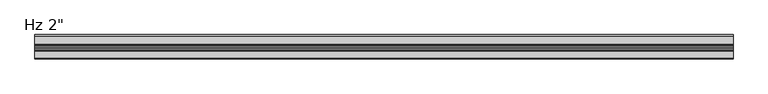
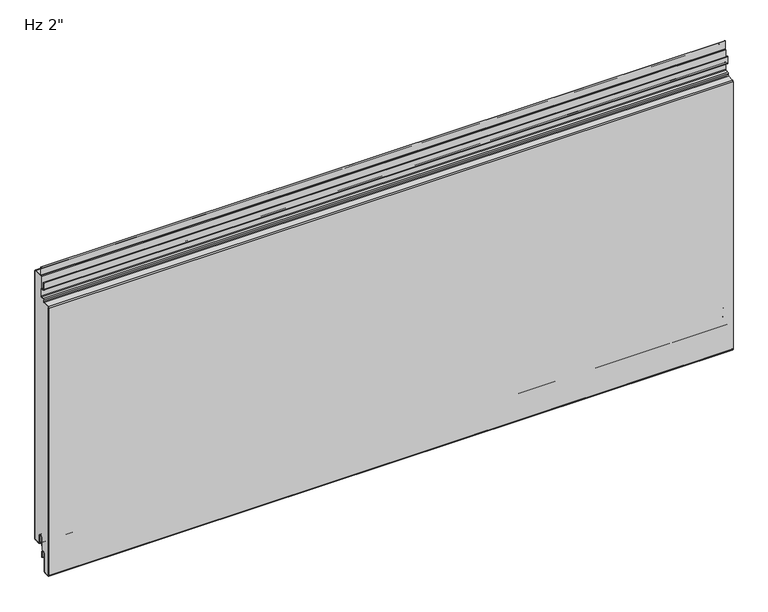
"""IFC4 building model written with IfcOpenShell, lengths in millimetres: plate geometry."""

from ifc_helpers import new_model, si_unit, point, frame, frame_2d, origin, place, context, project, spatial, polyline, circle_curve, ellipse_curve, trimmed, segment, composite_curve, outline, extrude, source, transform, mapped, element, save
from ifc_brep_helpers import plane_surface, cylinder_surface, revolved_surface, extruded_surface, advanced_brep


def plate_7f3252d8(model_context):
    return source(origin(), model_context, "Body", "SolidModel", [
        extrude(outline(composite_curve([segment(polyline([(-22.8125, 564.5620957), (-22.8125, 607.80625), (-2.38125, 607.80625)]), True, "CONTINUOUS"), segment(trimmed(circle_curve(frame_2d((-2.38125, 606.425)), 1.38125), [point((-2.38125, 607.80625))], [point((-1.0, 606.425))], False, "CARTESIAN"), True, "CONTINUOUS"), segment(polyline([(-1.0, 606.425), (-1.0, 3.175)]), True, "CONTINUOUS"), segment(trimmed(circle_curve(frame_2d((-2.38125, 3.175)), 1.38125), [point((-1.0, 3.175))], [point((-2.38125, 1.79375))], False, "CARTESIAN"), True, "CONTINUOUS"), segment(polyline([(-2.38125, 1.79375), (-15.08125, 1.79375)]), True, "CONTINUOUS"), segment(trimmed(circle_curve(frame_2d((-15.08125, 3.175)), 1.38125), [point((-15.08125, 1.79375))], [point((-16.4625, 3.175))], False, "CARTESIAN"), True, "CONTINUOUS"), segment(polyline([(-16.4625, 3.175), (-16.4625, 19.05)]), True, "CONTINUOUS"), segment(trimmed(circle_curve(frame_2d((-21.43125, 19.05)), 4.96875), [point((-16.4625, 19.05))], [point((-26.4, 19.05))], True, "CARTESIAN"), True, "CONTINUOUS"), segment(polyline([(-26.4, 19.05), (-26.4, -6.9375), (-30.95625, -6.9375)]), True, "CONTINUOUS"), segment(trimmed(circle_curve(frame_2d((-30.95625, -11.90625)), 4.96875), [point((-30.95625, -6.9375))], [point((-35.925, -11.90625))], True, "CARTESIAN"), True, "CONTINUOUS"), segment(polyline([(-35.925, -11.90625), (-35.925, -50.0895546)]), True, "CONTINUOUS"), segment(trimmed(circle_curve(frame_2d((-37.30625, -50.0895546)), 1.38125), [point((-35.925, -50.0895546))], [point((-37.233961, -51.4689117))], False, "CARTESIAN"), True, "CONTINUOUS"), segment(polyline([(-37.233961, -51.4689117), (-48.346461, -52.0512931)]), True, "CONTINUOUS"), segment(trimmed(circle_curve(frame_2d((-48.41875, -50.6719361)), 1.38125), [point((-48.346461, -52.0512931))], [point((-49.8, -50.6719361))], False, "CARTESIAN"), True, "CONTINUOUS"), segment(polyline([(-49.8, -50.6719361), (-49.8, 552.5715281)]), True, "CONTINUOUS"), segment(trimmed(circle_curve(frame_2d((-48.41875, 552.5715281)), 1.38125), [point((-49.8, 552.5715281))], [point((-48.491039, 553.9508852))], False, "CARTESIAN"), True, "CONTINUOUS"), segment(polyline([(-48.491039, 553.9508852), (-34.7895807, 554.6689482)]), True, "CONTINUOUS"), segment(trimmed(circle_curve(frame_2d((-34.925, 557.2529021)), 2.5875), [point((-34.7895807, 554.6689482))], [point((-32.3375, 557.2529021))], True, "CARTESIAN"), True, "CONTINUOUS"), segment(polyline([(-32.3375, 557.2529021), (-32.3375, 560.2967085)]), True, "CONTINUOUS"), segment(trimmed(circle_curve(frame_2d((-30.95625, 560.2967085)), 1.38125), [point((-32.3375, 560.2967085))], [point((-31.028539, 561.6760655))], False, "CARTESIAN"), True, "CONTINUOUS"), segment(polyline([(-31.028539, 561.6760655), (-25.2645807, 561.9781418)]), True, "CONTINUOUS"), segment(trimmed(circle_curve(frame_2d((-25.4, 564.5620957)), 2.5875), [point((-25.2645807, 561.9781418))], [point((-22.8125, 564.5620957))], True, "CARTESIAN"), True, "CONTINUOUS")], self_intersect=False)), frame((-730.0, 0.0, 0.0), z_axis=(1.0, 0.0, 0.0), x_axis=(0.0, 1.0, 0.0)), (0.0, 0.0, 1.0), 1460.0),
        extrude(outline(composite_curve([segment(polyline([(-25.4, 0.79375), (-26.4, 0.79375), (-26.4, 19.05)]), True, "CONTINUOUS"), segment(trimmed(circle_curve(frame_2d((-21.43125, 19.05)), 4.96875), [point((-26.4, 19.05))], [point((-16.4625, 19.05))], False, "CARTESIAN"), True, "CONTINUOUS"), segment(polyline([(-16.4625, 19.05), (-16.4625, 3.175)]), True, "CONTINUOUS"), segment(trimmed(circle_curve(frame_2d((-15.08125, 3.175)), 1.38125), [point((-16.4625, 3.175))], [point((-15.08125, 1.79375))], True, "CARTESIAN"), True, "CONTINUOUS"), segment(polyline([(-15.08125, 1.79375), (-2.38125, 1.79375)]), True, "CONTINUOUS"), segment(trimmed(circle_curve(frame_2d((-2.38125, 3.175)), 1.38125), [point((-2.38125, 1.79375))], [point((-1.0, 3.175))], True, "CARTESIAN"), True, "CONTINUOUS"), segment(polyline([(-1.0, 3.175), (-1.0, 606.425)]), True, "CONTINUOUS"), segment(trimmed(circle_curve(frame_2d((-2.38125, 606.425)), 1.38125), [point((-1.0, 606.425))], [point((-2.38125, 607.80625))], True, "CARTESIAN"), True, "CONTINUOUS"), segment(polyline([(-2.38125, 607.80625), (-19.446875, 607.80625)]), True, "CONTINUOUS"), segment(trimmed(circle_curve(frame_2d((-19.446875, 610.39375)), 2.5875), [point((-19.446875, 607.80625))], [point((-22.034375, 610.39375))], False, "CARTESIAN"), True, "CONTINUOUS"), segment(polyline([(-22.034375, 610.39375), (-22.034375, 627.85625), (-21.034375, 627.85625), (-21.034375, 610.39375)]), True, "CONTINUOUS"), segment(trimmed(circle_curve(frame_2d((-19.446875, 610.39375)), 1.5875), [point((-21.034375, 610.39375))], [point((-19.446875, 608.80625))], True, "CARTESIAN"), True, "CONTINUOUS"), segment(polyline([(-19.446875, 608.80625), (-2.38125, 608.80625)]), True, "CONTINUOUS"), segment(trimmed(circle_curve(frame_2d((-2.38125, 606.425)), 2.38125), [point((-2.38125, 608.80625))], [point((0.0, 606.425))], False, "CARTESIAN"), True, "CONTINUOUS"), segment(polyline([(0.0, 606.425), (0.0, 3.175)]), True, "CONTINUOUS"), segment(trimmed(circle_curve(frame_2d((-2.38125, 3.175)), 2.38125), [point((0.0, 3.175))], [point((-2.38125, 0.79375))], False, "CARTESIAN"), True, "CONTINUOUS"), segment(polyline([(-2.38125, 0.79375), (-15.08125, 0.79375)]), True, "CONTINUOUS"), segment(trimmed(circle_curve(frame_2d((-15.08125, 3.175)), 2.38125), [point((-15.08125, 0.79375))], [point((-17.4625, 3.175))], False, "CARTESIAN"), True, "CONTINUOUS"), segment(polyline([(-17.4625, 3.175), (-17.4625, 19.05)]), True, "CONTINUOUS"), segment(trimmed(circle_curve(frame_2d((-21.43125, 19.05)), 3.96875), [point((-17.4625, 19.05))], [point((-25.4, 19.05))], True, "CARTESIAN"), True, "CONTINUOUS"), segment(polyline([(-25.4, 19.05), (-25.4, 0.79375)]), True, "CONTINUOUS")], self_intersect=False)), frame((-730.0, 0.0, 0.0), z_axis=(1.0, 0.0, 0.0), x_axis=(0.0, 1.0, 0.0)), (0.0, 0.0, 1.0), 1460.0),
        advanced_brep(
        [(-730.0, -25.4, -23.2314549), (-730.0, -26.9875, -23.2314549), (-730.0, -26.9875, -11.9205174), (-730.0, -34.925, -11.9205174), (-730.0, -34.925, -50.1038221), (-730.0, -37.181625, -52.4818086), (-730.0, -48.294125, -53.0641901), (-730.0, -50.8, -50.6862035), (-730.0, -50.8, 552.5572607), (-730.0, -48.543375, 554.9352473), (-730.0, -34.8419167, 555.6533103), (-730.0, -33.3375, 557.2386347), (-730.0, -33.3375, 560.2824411), (-730.0, -31.080875, 562.6604276), (-730.0, -25.3169167, 562.9625039), (-730.0, -23.8125, 564.5478283), (-730.0, -23.8125, 579.4232326), (-730.0, -25.4, 581.0107326), (-730.0, -29.5671875, 581.0107326), (-730.0, -31.9484375, 583.3919826), (-730.0, -31.9484375, 597.8836032), (-730.0, -30.1546875, 597.8836032), (-730.0, -30.1546875, 588.1544826), (-730.0, -30.9484375, 588.1544826), (-730.0, -30.9484375, 583.3919826), (-730.0, -29.5671875, 582.0107326), (-730.0, -25.4, 582.0107326), (-730.0, -22.8125, 579.4232326), (-730.0, -22.8125, 564.5478283), (-730.0, -25.2645807, 561.9638744), (-730.0, -31.028539, 561.6617981), (-730.0, -32.3375, 560.2824411), (-730.0, -32.3375, 557.2386347), (-730.0, -34.7895807, 554.6546807), (-730.0, -48.491039, 553.9366177), (-730.0, -49.8, 552.5572607), (-730.0, -49.8, -50.6862035), (-730.0, -48.346461, -52.0655606), (-730.0, -37.233961, -51.4831791), (-730.0, -35.925, -50.1038221), (-730.0, -35.925, -11.9205174), (-730.0, -25.9875, -11.9205174), (-730.0, -26.19375, -13.5080174), (-730.0, -25.4, -13.5080174), (730.0, -25.4, -23.2314549), (730.0, -25.4, -13.5080174), (730.0, -26.19375, -13.5080174), (730.0, -25.9875, -11.9205174), (730.0, -35.925, -11.9205174), (730.0, -35.925, -50.1038221), (730.0, -37.233961, -51.4831791), (730.0, -48.346461, -52.0655606), (730.0, -49.8, -50.6862035), (730.0, -49.8, 552.5572607), (730.0, -48.491039, 553.9366177), (730.0, -34.7895807, 554.6546807), (730.0, -32.3375, 557.2386347), (730.0, -32.3375, 560.2824411), (730.0, -31.028539, 561.6617981), (730.0, -25.2645807, 561.9638744), (730.0, -22.8125, 564.5478283), (730.0, -22.8125, 579.4232326), (730.0, -25.4, 582.0107326), (730.0, -29.5671875, 582.0107326), (730.0, -30.9484375, 583.3919826), (730.0, -30.9484375, 588.1544826), (730.0, -30.1546875, 588.1544826), (730.0, -30.1546875, 597.8836032), (730.0, -31.9484375, 597.8836032), (730.0, -31.9484375, 583.3919826), (730.0, -29.5671875, 581.0107326), (730.0, -25.4, 581.0107326), (730.0, -23.8125, 579.4232326), (730.0, -23.8125, 564.5478283), (730.0, -25.3169167, 562.9625039), (730.0, -31.080875, 562.6604276), (730.0, -33.3375, 560.2824411), (730.0, -33.3375, 557.2386347), (730.0, -34.8419167, 555.6533103), (730.0, -48.543375, 554.9352473), (730.0, -50.8, 552.5572607), (730.0, -50.8, -50.6862035), (730.0, -48.294125, -53.0641901), (730.0, -37.181625, -52.4818086), (730.0, -34.925, -50.1038221), (730.0, -34.925, -11.9205174), (730.0, -26.9875, -11.9205174), (730.0, -26.9875, -23.2314549)],
        [
            (0, 1, circle_curve(frame((-730.0, -26.19375, -23.2314549), z_axis=(-1.0, 0.0, 0.0), x_axis=(0.0, 0.0, 1.0)), 0.79375)),
            (1, 2),
            (2, 3, circle_curve(frame((-730.0, -30.95625, -11.9205174), z_axis=(1.0, 0.0, 0.0), x_axis=(0.0, 0.0, 1.0)), 3.96875)),
            (3, 4),
            (4, 5, circle_curve(frame((-730.0, -37.30625, -50.1038221), z_axis=(-1.0, 0.0, 0.0), x_axis=(0.0, 0.0, 1.0)), 2.38125)),
            (5, 6),
            (6, 7, circle_curve(frame((-730.0, -48.41875, -50.6862035), z_axis=(-1.0, 0.0, 0.0), x_axis=(0.0, 0.0, 1.0)), 2.38125)),
            (7, 8),
            (8, 9, circle_curve(frame((-730.0, -48.41875, 552.5572607), z_axis=(-1.0, 0.0, 0.0), x_axis=(0.0, 0.0, 1.0)), 2.38125)),
            (9, 10),
            (10, 11, circle_curve(frame((-730.0, -34.925, 557.2386347), z_axis=(1.0, 0.0, 0.0), x_axis=(0.0, 0.0, 1.0)), 1.5875)),
            (11, 12),
            (12, 13, circle_curve(frame((-730.0, -30.95625, 560.2824411), z_axis=(-1.0, 0.0, 0.0), x_axis=(0.0, 0.0, 1.0)), 2.38125)),
            (13, 14),
            (14, 15, circle_curve(frame((-730.0, -25.4, 564.5478283), z_axis=(1.0, 0.0, 0.0), x_axis=(0.0, 0.0, 1.0)), 1.5875)),
            (15, 16),
            (16, 17, circle_curve(frame((-730.0, -25.4, 579.4232326), z_axis=(1.0, 0.0, 0.0), x_axis=(0.0, 0.0, 1.0)), 1.5875)),
            (17, 18),
            (18, 19, circle_curve(frame((-730.0, -29.5671875, 583.3919826), z_axis=(-1.0, 0.0, 0.0), x_axis=(0.0, 0.0, 1.0)), 2.38125)),
            (19, 20),
            (20, 21, ellipse_curve(frame((-730.0, -31.0515625, 597.8836032), z_axis=(-1.0, 0.0, 0.0), x_axis=(0.0, 1.0, 0.0)), 0.896875, 0.7852275)),
            (21, 22),
            (22, 23),
            (23, 24),
            (24, 25, circle_curve(frame((-730.0, -29.5671875, 583.3919826), z_axis=(1.0, 0.0, 0.0), x_axis=(0.0, 0.0, 1.0)), 1.38125)),
            (25, 26),
            (26, 27, circle_curve(frame((-730.0, -25.4, 579.4232326), z_axis=(-1.0, 0.0, 0.0), x_axis=(0.0, 0.0, 1.0)), 2.5875)),
            (27, 28),
            (28, 29, circle_curve(frame((-730.0, -25.4, 564.5478283), z_axis=(-1.0, 0.0, 0.0), x_axis=(0.0, 0.0, 1.0)), 2.5875)),
            (29, 30),
            (30, 31, circle_curve(frame((-730.0, -30.95625, 560.2824411), z_axis=(1.0, 0.0, 0.0), x_axis=(0.0, 0.0, 1.0)), 1.38125)),
            (31, 32),
            (32, 33, circle_curve(frame((-730.0, -34.925, 557.2386347), z_axis=(-1.0, 0.0, 0.0), x_axis=(0.0, 0.0, 1.0)), 2.5875)),
            (33, 34),
            (34, 35, circle_curve(frame((-730.0, -48.41875, 552.5572607), z_axis=(1.0, 0.0, 0.0), x_axis=(0.0, 0.0, 1.0)), 1.38125)),
            (35, 36),
            (36, 37, circle_curve(frame((-730.0, -48.41875, -50.6862035), z_axis=(1.0, 0.0, 0.0), x_axis=(0.0, 0.0, 1.0)), 1.38125)),
            (37, 38),
            (38, 39, circle_curve(frame((-730.0, -37.30625, -50.1038221), z_axis=(1.0, 0.0, 0.0), x_axis=(0.0, 0.0, 1.0)), 1.38125)),
            (39, 40),
            (40, 41, circle_curve(frame((-730.0, -30.95625, -11.9205174), z_axis=(-1.0, 0.0, 0.0), x_axis=(0.0, 0.0, 1.0)), 4.96875)),
            (41, 42),
            (42, 43),
            (43, 0),
            (44, 45),
            (45, 46),
            (46, 47),
            (47, 48, circle_curve(frame((730.0, -30.95625, -11.9205174), z_axis=(1.0, 0.0, 0.0), x_axis=(0.0, 0.0, 1.0)), 4.96875)),
            (48, 49),
            (49, 50, circle_curve(frame((730.0, -37.30625, -50.1038221), z_axis=(-1.0, 0.0, 0.0), x_axis=(0.0, 0.0, 1.0)), 1.38125)),
            (50, 51),
            (51, 52, circle_curve(frame((730.0, -48.41875, -50.6862035), z_axis=(-1.0, 0.0, 0.0), x_axis=(0.0, 0.0, 1.0)), 1.38125)),
            (52, 53),
            (53, 54, circle_curve(frame((730.0, -48.41875, 552.5572607), z_axis=(-1.0, 0.0, 0.0), x_axis=(0.0, 0.0, 1.0)), 1.38125)),
            (54, 55),
            (55, 56, circle_curve(frame((730.0, -34.925, 557.2386347), z_axis=(1.0, 0.0, 0.0), x_axis=(0.0, 0.0, 1.0)), 2.5875)),
            (56, 57),
            (57, 58, circle_curve(frame((730.0, -30.95625, 560.2824411), z_axis=(-1.0, 0.0, 0.0), x_axis=(0.0, 0.0, 1.0)), 1.38125)),
            (58, 59),
            (59, 60, circle_curve(frame((730.0, -25.4, 564.5478283), z_axis=(1.0, 0.0, 0.0), x_axis=(0.0, 0.0, 1.0)), 2.5875)),
            (60, 61),
            (61, 62, circle_curve(frame((730.0, -25.4, 579.4232326), z_axis=(1.0, 0.0, 0.0), x_axis=(0.0, 0.0, 1.0)), 2.5875)),
            (62, 63),
            (63, 64, circle_curve(frame((730.0, -29.5671875, 583.3919826), z_axis=(-1.0, 0.0, 0.0), x_axis=(0.0, 0.0, 1.0)), 1.38125)),
            (64, 65),
            (65, 66),
            (66, 67),
            (67, 68, ellipse_curve(frame((730.0, -31.0515625, 597.8836032), z_axis=(1.0, 0.0, 0.0), x_axis=(0.0, 1.0, 0.0)), 0.896875, 0.7852275)),
            (68, 69),
            (69, 70, circle_curve(frame((730.0, -29.5671875, 583.3919826), z_axis=(1.0, 0.0, 0.0), x_axis=(0.0, 0.0, 1.0)), 2.38125)),
            (70, 71),
            (71, 72, circle_curve(frame((730.0, -25.4, 579.4232326), z_axis=(-1.0, 0.0, 0.0), x_axis=(0.0, 0.0, 1.0)), 1.5875)),
            (72, 73),
            (73, 74, circle_curve(frame((730.0, -25.4, 564.5478283), z_axis=(-1.0, 0.0, 0.0), x_axis=(0.0, 0.0, 1.0)), 1.5875)),
            (74, 75),
            (75, 76, circle_curve(frame((730.0, -30.95625, 560.2824411), z_axis=(1.0, 0.0, 0.0), x_axis=(0.0, 0.0, 1.0)), 2.38125)),
            (76, 77),
            (77, 78, circle_curve(frame((730.0, -34.925, 557.2386347), z_axis=(-1.0, 0.0, 0.0), x_axis=(0.0, 0.0, 1.0)), 1.5875)),
            (78, 79),
            (79, 80, circle_curve(frame((730.0, -48.41875, 552.5572607), z_axis=(1.0, 0.0, 0.0), x_axis=(0.0, 0.0, 1.0)), 2.38125)),
            (80, 81),
            (81, 82, circle_curve(frame((730.0, -48.41875, -50.6862035), z_axis=(1.0, 0.0, 0.0), x_axis=(0.0, 0.0, 1.0)), 2.38125)),
            (82, 83),
            (83, 84, circle_curve(frame((730.0, -37.30625, -50.1038221), z_axis=(1.0, 0.0, 0.0), x_axis=(0.0, 0.0, 1.0)), 2.38125)),
            (84, 85),
            (85, 86, circle_curve(frame((730.0, -30.95625, -11.9205174), z_axis=(-1.0, 0.0, 0.0), x_axis=(0.0, 0.0, 1.0)), 3.96875)),
            (86, 87),
            (87, 44, circle_curve(frame((730.0, -26.19375, -23.2314549), z_axis=(1.0, 0.0, 0.0), x_axis=(0.0, 0.0, 1.0)), 0.79375)),
            (23, 65),
            (64, 24),
            (28, 60),
            (59, 29),
            (58, 30),
            (57, 31),
            (56, 32),
            (55, 33),
            (54, 34),
            (37, 51),
            (50, 38),
            (49, 39),
            (48, 40),
            (43, 45),
            (44, 0),
            (87, 1),
            (86, 2),
            (85, 3),
            (84, 4),
            (83, 5),
            (82, 6),
            (9, 79),
            (78, 10),
            (77, 11),
            (76, 12),
            (75, 13),
            (74, 14),
            (73, 15),
            (72, 16),
            (71, 17),
            (70, 18),
            (69, 19),
            (27, 61),
            (26, 62),
            (25, 63),
            (21, 67),
            (66, 22),
            (20, 68),
            (41, 47),
            (46, 42),
            (53, 35),
            (52, 36),
            (81, 7),
            (80, 8),
        ],
        [
            plane_surface(frame((-730.0, -50.8, 304.8), z_axis=(-1.0, 0.0, 0.0), x_axis=(0.0, -1.0, 0.0))),
            plane_surface(frame((730.0, -50.8, 304.8), z_axis=(1.0, 0.0, 0.0), x_axis=(0.0, -1.0, 0.0))),
            plane_surface(frame((-730.0, -30.9484375, 583.3919826), z_axis=(0.0, 1.0, 0.0), x_axis=(1.0, 0.0, 0.0))),
            cylinder_surface(frame((-730.0, -25.4, 564.5478283), z_axis=(-1.0, 0.0, 0.0), x_axis=(0.0, 0.0, 1.0)), 2.5875),
            plane_surface(frame((-730.0, -31.028539, 561.6617981), z_axis=(0.0, 0.0523359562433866, -0.9986295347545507), x_axis=(1.0, 0.0, 0.0))),
            revolved_surface(polyline([(730.0, -30.95625, 561.6636911), (-730.0, -30.95625, 561.6636911)]), (-730.0, -30.95625, 560.2824411), (1.0, 0.0, 0.0)),
            plane_surface(frame((-730.0, -32.3375, 557.2386347), z_axis=(0.0, 1.0, 0.0), x_axis=(1.0, 0.0, 0.0))),
            cylinder_surface(frame((-730.0, -34.925, 557.2386347), z_axis=(-1.0, 0.0, 0.0), x_axis=(0.0, 0.0, 1.0)), 2.5875),
            plane_surface(frame((-730.0, -48.491039, 553.9366177), z_axis=(0.0, 0.05233595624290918, -0.9986295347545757), x_axis=(1.0, 0.0, 0.0))),
            plane_surface(frame((-730.0, -37.233961, -51.4831791), z_axis=(0.0, -0.05233595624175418, 0.9986295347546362), x_axis=(1.0, 0.0, 0.0))),
            revolved_surface(polyline([(730.0, -37.30625, -48.7225721), (-730.0, -37.30625, -48.7225721)]), (-730.0, -37.30625, -50.1038221), (1.0, 0.0, 0.0)),
            plane_surface(frame((-730.0, -35.925, -11.9205174), z_axis=(0.0, -1.0, 0.0), x_axis=(1.0, 0.0, 0.0))),
            plane_surface(frame((-730.0, -25.4, -23.2314549), z_axis=(0.0, 1.0, 0.0), x_axis=(1.0, 0.0, 0.0))),
            cylinder_surface(frame((-730.0, -26.19375, -23.2314549), z_axis=(-1.0, 0.0, 0.0), x_axis=(0.0, 0.0, 1.0)), 0.79375),
            plane_surface(frame((-730.0, -26.9875, -11.9205174), z_axis=(0.0, -1.0, 0.0), x_axis=(1.0, 0.0, 0.0))),
            revolved_surface(polyline([(730.0, -30.95625, -7.9517674), (-730.0, -30.95625, -7.9517674)]), (-730.0, -30.95625, -11.9205174), (1.0, 0.0, 0.0)),
            plane_surface(frame((-730.0, -34.925, -50.1038221), z_axis=(0.0, 1.0, 0.0), x_axis=(1.0, 0.0, 0.0))),
            cylinder_surface(frame((-730.0, -37.30625, -50.1038221), z_axis=(-1.0, 0.0, 0.0), x_axis=(0.0, 0.0, 1.0)), 2.38125),
            plane_surface(frame((-730.0, -48.294125, -53.0641901), z_axis=(0.0, 0.05233595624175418, -0.9986295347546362), x_axis=(1.0, 0.0, 0.0))),
            plane_surface(frame((-730.0, -34.8419167, 555.6533103), z_axis=(0.0, -0.052335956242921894, 0.998629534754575), x_axis=(1.0, 0.0, 0.0))),
            revolved_surface(polyline([(730.0, -34.925, 558.8261347), (-730.0, -34.925, 558.8261347)]), (-730.0, -34.925, 557.2386347), (1.0, 0.0, 0.0)),
            plane_surface(frame((-730.0, -33.3375, 560.2824411), z_axis=(0.0, -1.0, 0.0), x_axis=(1.0, 0.0, 0.0))),
            cylinder_surface(frame((-730.0, -30.95625, 560.2824411), z_axis=(-1.0, 0.0, 0.0), x_axis=(0.0, 0.0, 1.0)), 2.38125),
            plane_surface(frame((-730.0, -25.3169167, 562.9625039), z_axis=(0.0, -0.05233595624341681, 0.9986295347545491), x_axis=(1.0, 0.0, 0.0))),
            revolved_surface(polyline([(730.0, -25.4, 566.1353283), (-730.0, -25.4, 566.1353283)]), (-730.0, -25.4, 564.5478283), (1.0, 0.0, 0.0)),
            plane_surface(frame((-730.0, -23.8125, 579.4232326), z_axis=(0.0, -1.0, 0.0), x_axis=(1.0, 0.0, 0.0))),
            revolved_surface(polyline([(730.0, -25.4, 581.0107326), (-730.0, -25.4, 581.0107326)]), (-730.0, -25.4, 579.4232326), (1.0, 0.0, 0.0)),
            plane_surface(frame((-730.0, -29.5671875, 581.0107326), z_axis=(0.0, 0.0, -1.0), x_axis=(1.0, 0.0, 0.0))),
            cylinder_surface(frame((-730.0, -29.5671875, 583.3919826), z_axis=(-1.0, 0.0, 0.0), x_axis=(0.0, 0.0, 1.0)), 2.38125),
            plane_surface(frame((-730.0, -22.8125, 564.5478283), z_axis=(0.0, 1.0, 0.0), x_axis=(1.0, 0.0, 0.0))),
            cylinder_surface(frame((-730.0, -25.4, 579.4232326), z_axis=(-1.0, 0.0, 0.0), x_axis=(0.0, 0.0, 1.0)), 2.5875),
            plane_surface(frame((-730.0, -25.4, 582.0107326), z_axis=(0.0, 0.0, 1.0), x_axis=(1.0, 0.0, 0.0))),
            revolved_surface(polyline([(730.0, -29.5671875, 584.7732326), (-730.0, -29.5671875, 584.7732326)]), (-730.0, -29.5671875, 583.3919826), (1.0, 0.0, 0.0)),
            plane_surface(frame((-730.0, -30.1546875, 588.1544826), z_axis=(0.0, 1.0, 0.0), x_axis=(1.0, 0.0, 0.0))),
            extruded_surface(trimmed(ellipse_curve(frame((-730.0, -31.0515625, 597.8836032), z_axis=(1.0, 0.0, 0.0), x_axis=(0.0, 1.0, 0.0)), 0.896875, 0.7852275), [point((-730.0, -30.1546875, 597.8836032))], [point((-730.0, -31.9484375, 597.8836032))], True, "CARTESIAN"), (1460.0, 0.0, 0.0), 1460.0),
            plane_surface(frame((-730.0, -26.19375, -13.5080174), z_axis=(0.0, 0.9916655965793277, -0.12883844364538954), x_axis=(1.0, 0.0, 0.0))),
            cylinder_surface(frame((-730.0, -30.95625, -11.9205174), z_axis=(-1.0, 0.0, 0.0), x_axis=(0.0, 0.0, 1.0)), 4.96875),
            plane_surface(frame((-730.0, -25.4, -13.5080174), z_axis=(0.0, 0.0, 1.0), x_axis=(1.0, 0.0, 0.0))),
            plane_surface(frame((-730.0, -30.9484375, 588.1544826), z_axis=(0.0, 0.0, -1.0), x_axis=(1.0, 0.0, 0.0))),
            revolved_surface(polyline([(730.0, -48.41875, 553.9385107), (-730.0, -48.41875, 553.9385107)]), (-730.0, -48.41875, 552.5572607), (1.0, 0.0, 0.0)),
            plane_surface(frame((-730.0, -49.8, -50.6862035), z_axis=(0.0, 1.0, 0.0), x_axis=(1.0, 0.0, 0.0))),
            revolved_surface(polyline([(730.0, -48.41875, -49.304953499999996), (-730.0, -48.41875, -49.304953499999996)]), (-730.0, -48.41875, -50.6862035), (1.0, 0.0, 0.0)),
            cylinder_surface(frame((-730.0, -48.41875, -50.6862035), z_axis=(-1.0, 0.0, 0.0), x_axis=(0.0, 0.0, 1.0)), 2.38125),
            plane_surface(frame((-730.0, -50.8, 552.5572607), z_axis=(0.0, -1.0, 0.0), x_axis=(1.0, 0.0, 0.0))),
            cylinder_surface(frame((-730.0, -48.41875, 552.5572607), z_axis=(-1.0, 0.0, 0.0), x_axis=(0.0, 0.0, 1.0)), 2.38125),
            plane_surface(frame((-730.0, -31.9484375, 597.8836032), z_axis=(0.0, -1.0, 0.0), x_axis=(1.0, 0.0, 0.0))),
        ],
        [
            (0, [[1, 2, 3, 4, 5, 6, 7, 8, 9, 10, 11, 12, 13, 14, 15, 16, 17, 18, 19, 20, 21, 22, 23, 24, 25, 26, 27, 28, 29, 30, 31, 32, 33, 34, 35, 36, 37, 38, 39, 40, 41, 42, 43, 44]]),
            (1, [[45, 46, 47, 48, 49, 50, 51, 52, 53, 54, 55, 56, 57, 58, 59, 60, 61, 62, 63, 64, 65, 66, 67, 68, 69, 70, 71, 72, 73, 74, 75, 76, 77, 78, 79, 80, 81, 82, 83, 84, 85, 86, 87, 88]]),
            (2, [[89, -65, 90, -24]]),
            (3, [[91, -60, 92, -29]]),
            (4, [[-92, -59, 93, -30]]),
            (5, [[-93, -58, 94, -31]]),
            (6, [[-94, -57, 95, -32]]),
            (7, [[-95, -56, 96, -33]]),
            (8, [[-96, -55, 97, -34]]),
            (9, [[98, -51, 99, -38]]),
            (10, [[-99, -50, 100, -39]]),
            (11, [[-100, -49, 101, -40]]),
            (12, [[102, -45, 103, -44]]),
            (13, [[-103, -88, 104, -1]]),
            (14, [[-104, -87, 105, -2]]),
            (15, [[-105, -86, 106, -3]]),
            (16, [[-106, -85, 107, -4]]),
            (17, [[-107, -84, 108, -5]]),
            (18, [[-108, -83, 109, -6]]),
            (19, [[110, -79, 111, -10]]),
            (20, [[-111, -78, 112, -11]]),
            (21, [[-112, -77, 113, -12]]),
            (22, [[-113, -76, 114, -13]]),
            (23, [[-114, -75, 115, -14]]),
            (24, [[-115, -74, 116, -15]]),
            (25, [[-116, -73, 117, -16]]),
            (26, [[-117, -72, 118, -17]]),
            (27, [[-118, -71, 119, -18]]),
            (28, [[-119, -70, 120, -19]]),
            (29, [[121, -61, -91, -28]]),
            (30, [[122, -62, -121, -27]]),
            (31, [[123, -63, -122, -26]]),
            (32, [[-90, -64, -123, -25]]),
            (33, [[124, -67, 125, -22]]),
            (34, [[126, -68, -124, -21]]),
            (35, [[127, -47, 128, -42]]),
            (36, [[-101, -48, -127, -41]]),
            (37, [[-128, -46, -102, -43]]),
            (38, [[-125, -66, -89, -23]]),
            (39, [[-97, -54, 129, -35]]),
            (40, [[-129, -53, 130, -36]]),
            (41, [[-130, -52, -98, -37]]),
            (42, [[-109, -82, 131, -7]]),
            (43, [[-131, -81, 132, -8]]),
            (44, [[-132, -80, -110, -9]]),
            (45, [[-120, -69, -126, -20]]),
        ],
    ),
    ])


if __name__ == "__main__":
    model = new_model("IFC4")
    model_context = context("Model", 3, world=origin())
    ifc_project = project(units=[si_unit("LENGTHUNIT", "METRE", prefix="MILLI")], contexts=[model_context])
    site = spatial("IfcSite", under=ifc_project)
    building = spatial("IfcBuilding", under=site)
    placement = place(None, origin())
    plate_shape = plate_7f3252d8(model_context)
    element("IfcPlate", 1, ObjectType="KIP-24-DWTR-R19-CP-Hz-F : Hz 2\"", at=placement, inside=building, context=model_context, shape_type="MappedRepresentation", body=[
        mapped(plate_shape, transform((0.0, 0.0, 0.0), x_axis=(1.0, 0.0, 0.0), y_axis=(0.0, 1.0, 0.0), z_axis=(0.0, 0.0, 1.0))),
    ])
    save(model, "model.ifc")
